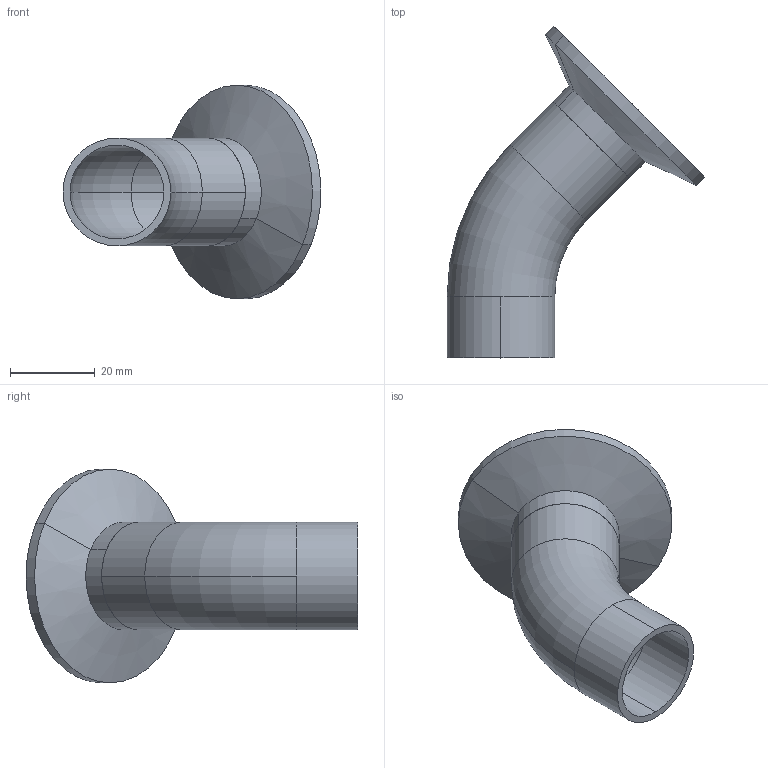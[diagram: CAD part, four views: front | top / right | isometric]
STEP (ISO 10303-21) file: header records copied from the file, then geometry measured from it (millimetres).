
FILE_DESCRIPTION (( 'STEP AP203' ), '1' );
FILE_NAME ('E2KC1.0.STEP', '2018-04-30T15:45:24', ( 'vneprd' ), ( 'Microsoft' ), 'SwSTEP 2.0', 'SolidWorks 2014', '' );
FILE_SCHEMA (( 'CONFIG_CONTROL_DESIGN' ));
Length unit declared in the file: inch
Products named in the file (1): E2KC1.0
Bounding box: 60.82 x 78.28 x 50.39 mm (x, y, z)
Volume: 15712 mm3; surface area: 14207.8 mm2
Topology: 2 solids, 2 shells, 31 faces, 66 edges, 40 vertices
Faces by surface type: cylinder 14, torus 10, plane 5, cone 2
Entity records: 939 total; most frequent: DIRECTION 180, CARTESIAN_POINT 138, ORIENTED_EDGE 132, AXIS2_PLACEMENT_3D 82, EDGE_CURVE 66, CIRCLE 50, VERTEX_POINT 40, EDGE_LOOP 36
